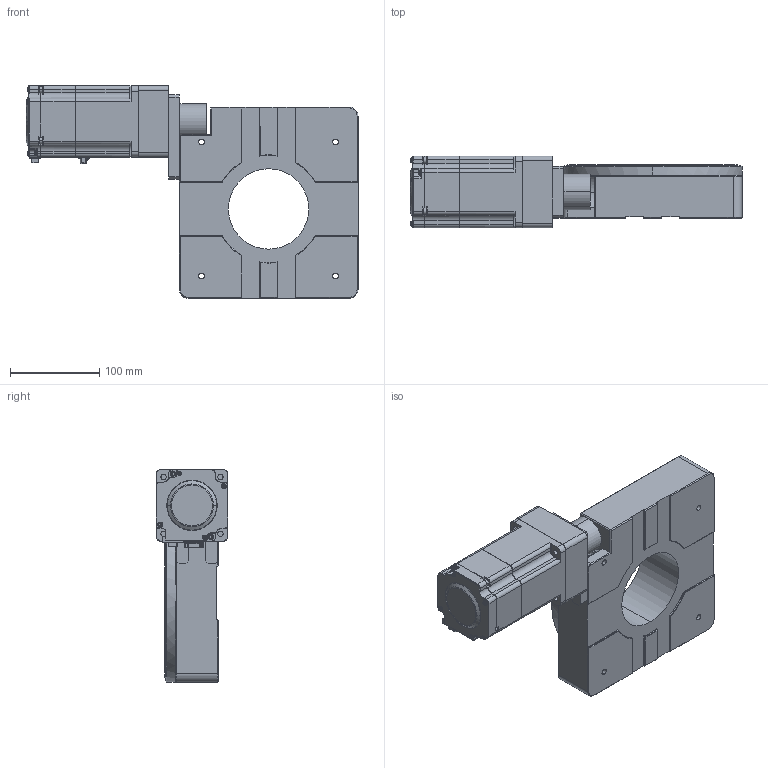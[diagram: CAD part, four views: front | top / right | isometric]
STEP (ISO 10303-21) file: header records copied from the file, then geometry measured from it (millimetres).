
FILE_DESCRIPTION (( 'STEP AP203' ), '1' );
FILE_NAME ('200蛌怢遙750w侜督萇儂.STEP', '2020-02-20T03:34:56', ( '' ), ( '' ), 'SwSTEP 2.0', 'SolidWorks 2016', '' );
FILE_SCHEMA (( 'CONFIG_CONTROL_DESIGN' ));
Length unit declared in the file: millimetre
Products named in the file (1): 200蛌怢遙750w侜督萇儂
Bounding box: 371.5 x 80 x 238 mm (x, y, z)
Surface area: 228352.9 mm2 (no closed solid volume)
Topology: 0 solids, 11 shells, 595 faces, 1886 edges, 1297 vertices
Faces by surface type: plane 268, cylinder 247, cone 43, sphere 19, torus 18
Entity records: 21229 total; most frequent: CARTESIAN_POINT 4146, DIRECTION 3667, ORIENTED_EDGE 3282, EDGE_CURVE 1876, VERTEX_POINT 1297, AXIS2_PLACEMENT_3D 1262, LINE 1143, VECTOR 1143
